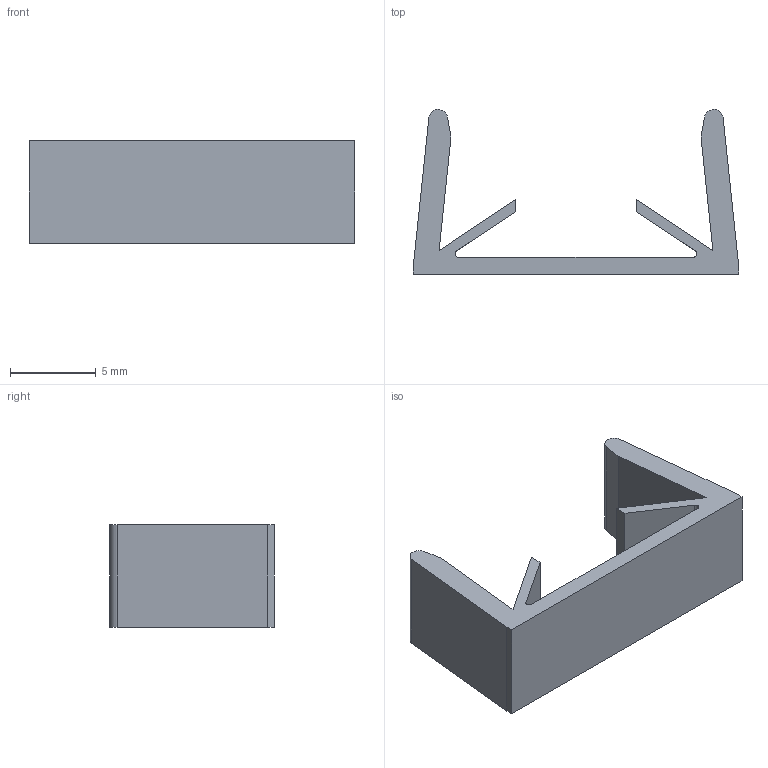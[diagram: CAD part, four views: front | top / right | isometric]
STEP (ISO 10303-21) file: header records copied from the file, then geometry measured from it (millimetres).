
FILE_DESCRIPTION (( 'STEP AP214' ), '1' );
FILE_NAME ('J3NH.step', '2017-05-24T07:40:05', ( 'admin' ), ( '' ), 'SwSTEP 2.0', 'SolidWorks 2014', '' );
FILE_SCHEMA (( 'AUTOMOTIVE_DESIGN' ));
Length unit declared in the file: millimetre
Products named in the file (1): J3NH
Bounding box: 19 x 9.62 x 6 mm (x, y, z)
Volume: 292.8 mm3; surface area: 645.6 mm2
Topology: 1 solids, 1 shells, 23 faces, 63 edges, 42 vertices
Faces by surface type: plane 18, cylinder 5
Entity records: 761 total; most frequent: CARTESIAN_POINT 129, ORIENTED_EDGE 126, DIRECTION 121, EDGE_CURVE 63, VECTOR 53, LINE 53, VERTEX_POINT 42, AXIS2_PLACEMENT_3D 34
